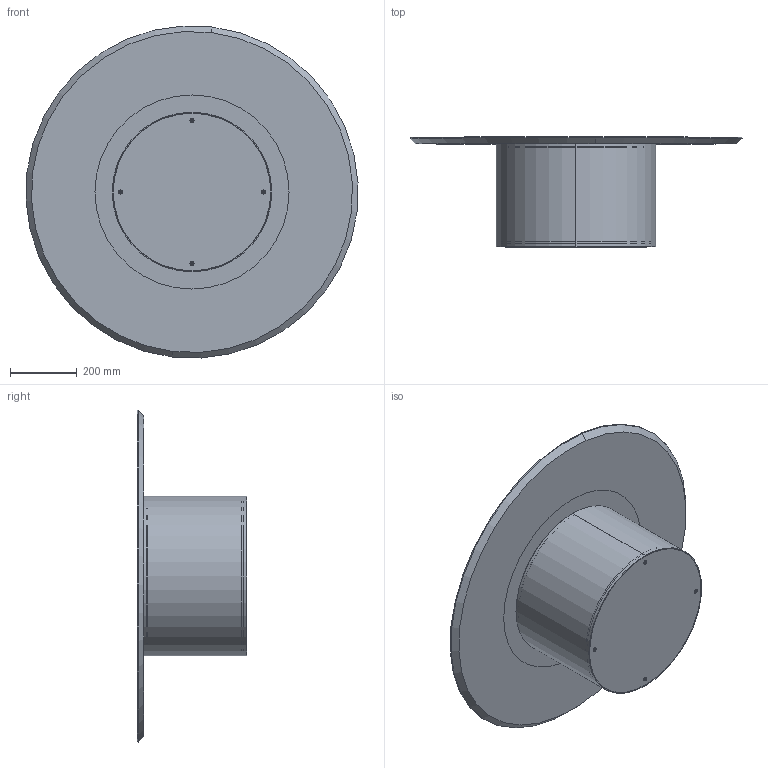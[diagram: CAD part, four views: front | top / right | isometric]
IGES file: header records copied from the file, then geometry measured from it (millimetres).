
Start section: SolidWorks IGES file using analytic representation for surfaces
Global section: file name: Y:\eforma\TECNICO\SOLIDWORKS\E-FORMA\2-TAVOLINI\CILINDRO LOW\02 parts\CL03W.IGS; native system: SolidWorks 2022; preprocessor: SolidWorks 2022; author: eforma.tech; date: 240806.121423; units: millimetre
Bounding box: 998.51 x 330 x 998.51 mm (x, y, z)
Volume: 23045791.2 mm3; surface area: 4380510.8 mm2
Topology: 14 solids, 14 shells, 259 faces, 559 edges, 320 vertices
Faces by surface type: revolution 143, plane 114, bspline 2
